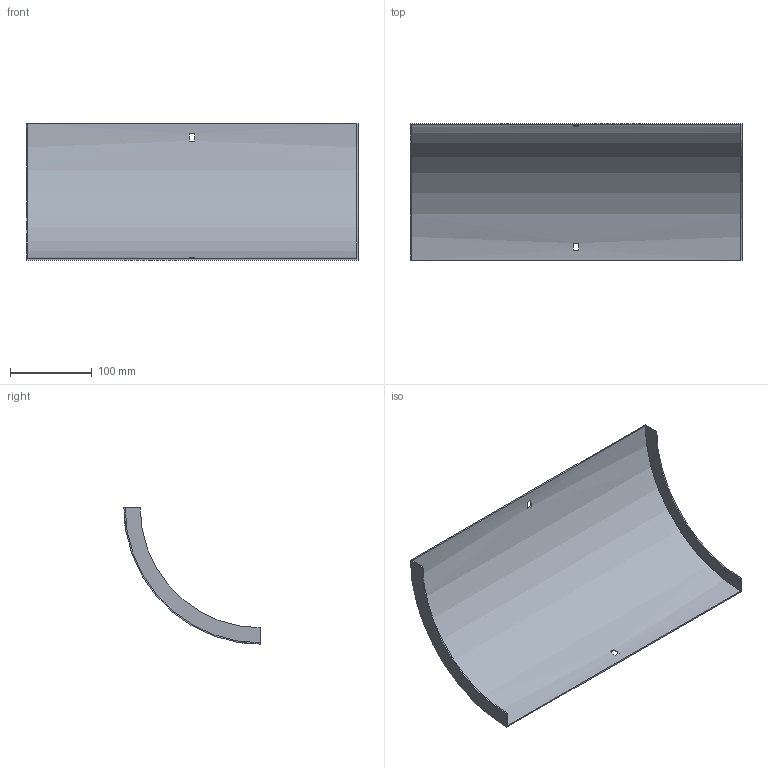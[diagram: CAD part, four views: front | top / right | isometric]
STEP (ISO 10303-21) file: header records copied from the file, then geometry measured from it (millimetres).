
FILE_DESCRIPTION (( 'STEP AP214' ), '1' );
FILE_NAME ('33N1H400.step', '2025-02-21T09:18:43', ( '' ), ( '' ), 'SwSTEP 2.0', 'SolidWorks 2023', '' );
FILE_SCHEMA (( 'AUTOMOTIVE_DESIGN' ));
Length unit declared in the file: millimetre
Products named in the file (1): 33N1H400
Bounding box: 407 x 167 x 167 mm (x, y, z)
Volume: 172874.3 mm3; surface area: 232620.8 mm2
Topology: 1 solids, 1 shells, 18 faces, 48 edges, 32 vertices
Faces by surface type: plane 14, cylinder 4
Entity records: 599 total; most frequent: DIRECTION 102, CARTESIAN_POINT 99, ORIENTED_EDGE 96, EDGE_CURVE 48, AXIS2_PLACEMENT_3D 35, VECTOR 32, VERTEX_POINT 32, LINE 32
